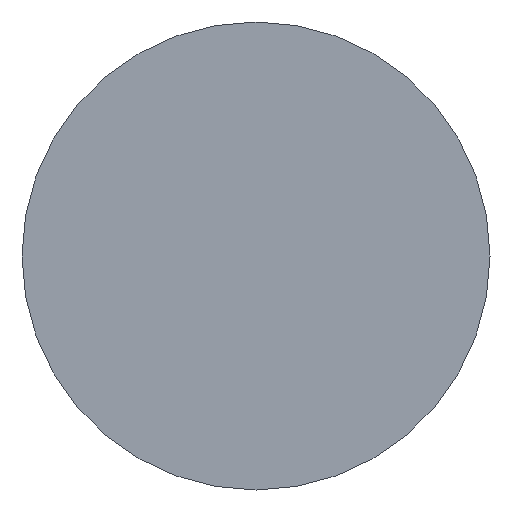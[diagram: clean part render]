
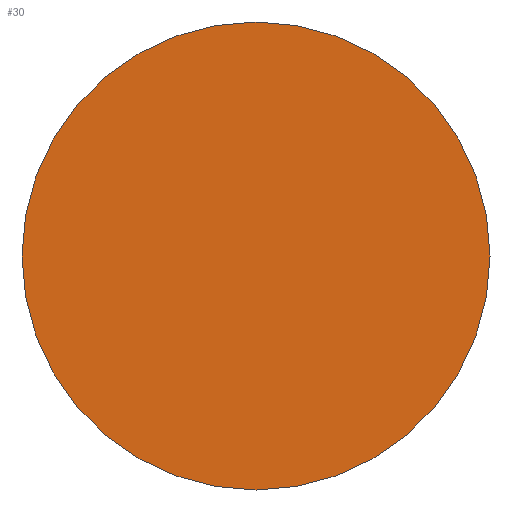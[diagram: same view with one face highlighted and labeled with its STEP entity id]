
A CAD part, left-side view. The second image highlights one B-rep face of the part: STEP entity #30.
In plain terms, the highlighted planar face has unit normal (-1, 0, 0).
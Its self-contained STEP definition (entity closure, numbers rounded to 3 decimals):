
#4 = FACE_OUTER_BOUND ( 'NONE', #186, .T. ) ;
#13 = AXIS2_PLACEMENT_3D ( 'NONE', #129, #160, #38 ) ;
#20 = ORIENTED_EDGE ( 'NONE', *, *, #192, .T. ) ;
#26 = VERTEX_POINT ( 'NONE', #50 ) ;
#30 = ADVANCED_FACE ( 'NONE', ( #4 ), #122, .F. ) ;
#38 = DIRECTION ( 'NONE',  ( 0., 0., 1. ) ) ;
#50 = CARTESIAN_POINT ( 'NONE',  ( -231., 0., -44. ) ) ;
#55 = DIRECTION ( 'NONE',  ( -1., 0., 0. ) ) ;
#80 = DIRECTION ( 'NONE',  ( 0., 0., 1. ) ) ;
#96 = AXIS2_PLACEMENT_3D ( 'NONE', #250, #55, #80 ) ;
#98 = ORIENTED_EDGE ( 'NONE', *, *, #139, .T. ) ;
#102 = CARTESIAN_POINT ( 'NONE',  ( -231., 0., 0. ) ) ;
#122 = PLANE ( 'NONE',  #154 ) ;
#129 = CARTESIAN_POINT ( 'NONE',  ( -231., 0., 0. ) ) ;
#139 = EDGE_CURVE ( 'NONE', #218, #26, #201, .T. ) ;
#142 = DIRECTION ( 'NONE',  ( 0., 0., 1. ) ) ;
#143 = CIRCLE ( 'NONE', #13, 44. ) ;
#154 = AXIS2_PLACEMENT_3D ( 'NONE', #102, #179, #142 ) ;
#160 = DIRECTION ( 'NONE',  ( -1., 0., 0. ) ) ;
#162 = CARTESIAN_POINT ( 'NONE',  ( -231., 0., 44. ) ) ;
#179 = DIRECTION ( 'NONE',  ( 1., 0., 0. ) ) ;
#186 = EDGE_LOOP ( 'NONE', ( #20, #98 ) ) ;
#192 = EDGE_CURVE ( 'NONE', #26, #218, #143, .T. ) ;
#201 = CIRCLE ( 'NONE', #96, 44. ) ;
#218 = VERTEX_POINT ( 'NONE', #162 ) ;
#250 = CARTESIAN_POINT ( 'NONE',  ( -231., 0., 0. ) ) ;
